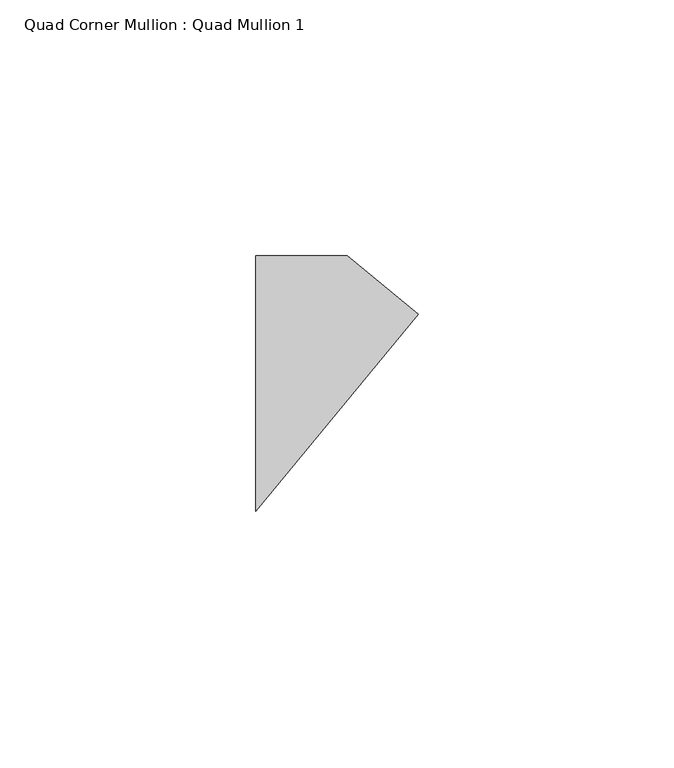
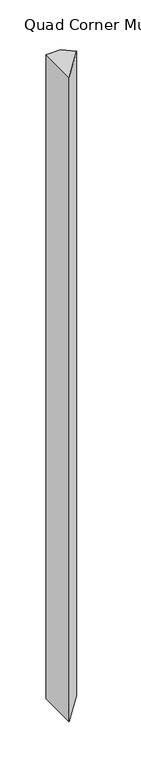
"""IFC4 building model written with IfcOpenShell, lengths in millimetres: member geometry, Quad Corner Mullion : Quad Mullion 1."""

from ifc_helpers import new_model, si_unit, frame, origin, place, context, project, spatial, polyline, outline, extrude, source, transform, mapped, element, save


def quad_corner_mullion_quad_mullion_1_a03ce5f6(model_context):
    return source(origin(), model_context, "Body", "SweptSolid", [
        extrude(outline(polyline([(22.8068923, 13.6086231), (-8.963758, -25.0), (-8.963758, 25.0), (8.963758, 25.0), (22.8068923, 13.6086231)])), frame((0.0, 0.0, -850.0), z_axis=(0.0, 0.0, 1.0), x_axis=(1.0, 0.0, 0.0)), (0.0, 0.0, 1.0), 850.0),
    ])


if __name__ == "__main__":
    model = new_model("IFC4")
    model_context = context("Model", 3, world=origin())
    ifc_project = project(units=[si_unit("LENGTHUNIT", "METRE", prefix="MILLI")], contexts=[model_context])
    site = spatial("IfcSite", under=ifc_project)
    building = spatial("IfcBuilding", under=site)
    placement = place(None, origin())
    quad_corner_mullion_quad_mullion_1_shape = quad_corner_mullion_quad_mullion_1_a03ce5f6(model_context)
    element("IfcMember", 1, ObjectType="Quad Corner Mullion : Quad Mullion 1", at=placement, inside=building, context=model_context, shape_type="MappedRepresentation", body=[
        mapped(quad_corner_mullion_quad_mullion_1_shape, transform((0.0, 0.0, 0.0), x_axis=(1.0, 0.0, 0.0), y_axis=(0.0, 1.0, 0.0), z_axis=(0.0, 0.0, 1.0))),
    ])
    save(model, "model.ifc")
